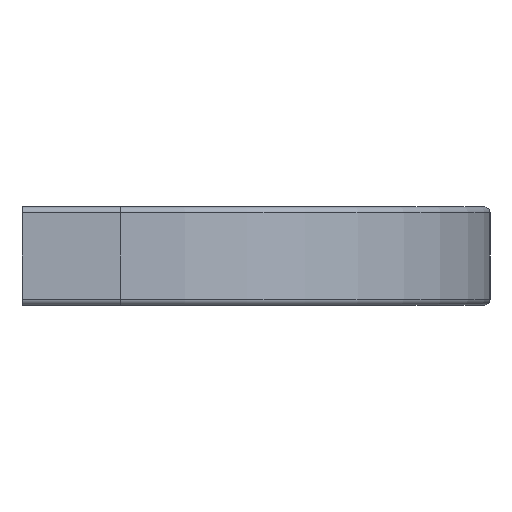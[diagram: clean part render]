
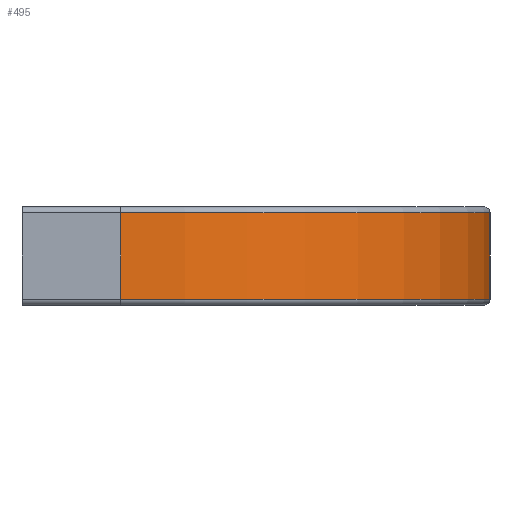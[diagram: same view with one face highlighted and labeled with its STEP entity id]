
A CAD part, left-side view. The second image highlights one B-rep face of the part: STEP entity #495.
In plain terms, the highlighted cylindrical face has radius 30 mm (diameter 60 mm), a partial arc.
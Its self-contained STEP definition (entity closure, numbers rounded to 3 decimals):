
#267 = VERTEX_POINT( '', #669 );
#273 = EDGE_CURVE( '', #267, #431, #675, .T. );
#333 = EDGE_CURVE( '', #547, #463, #738, .T. );
#431 = VERTEX_POINT( '', #847 );
#443 = EDGE_CURVE( '', #547, #267, #860, .T. );
#463 = VERTEX_POINT( '', #881 );
#495 = ADVANCED_FACE( '', ( #917 ), #918, .T. );
#545 = EDGE_CURVE( '', #463, #431, #975, .T. );
#547 = VERTEX_POINT( '', #977 );
#669 = CARTESIAN_POINT( '', ( -10., -8., 3.5 ) );
#675 = LINE( '', #1121, #1122 );
#738 = LINE( '', #1209, #1210 );
#847 = CARTESIAN_POINT( '', ( -10., -8., -3.5 ) );
#860 = CIRCLE( '', #1370, 30. );
#881 = CARTESIAN_POINT( '', ( 20., -38., -3.5 ) );
#917 = FACE_OUTER_BOUND( '', #1446, .T. );
#918 = CYLINDRICAL_SURFACE( '', #1447, 30. );
#975 = CIRCLE( '', #1526, 30. );
#977 = CARTESIAN_POINT( '', ( 20., -38., 3.5 ) );
#1121 = CARTESIAN_POINT( '', ( -10., -8., 4. ) );
#1122 = VECTOR( '', #1682, 1. );
#1209 = CARTESIAN_POINT( '', ( 20., -38., 4. ) );
#1210 = VECTOR( '', #1735, 1. );
#1370 = AXIS2_PLACEMENT_3D( '', #1889, #1890, #1891 );
#1446 = EDGE_LOOP( '', ( #1973, #1974, #1975, #1976 ) );
#1447 = AXIS2_PLACEMENT_3D( '', #1977, #1978, #1979 );
#1526 = AXIS2_PLACEMENT_3D( '', #2057, #2058, #2059 );
#1682 = DIRECTION( '', ( 0., 0., -1. ) );
#1735 = DIRECTION( '', ( 0., 0., -1. ) );
#1889 = CARTESIAN_POINT( '', ( 20., -8., 3.5 ) );
#1890 = DIRECTION( '', ( 0., 0., -1. ) );
#1891 = DIRECTION( '', ( -1., 0., 0. ) );
#1973 = ORIENTED_EDGE( '', *, *, #443, .T. );
#1974 = ORIENTED_EDGE( '', *, *, #273, .T. );
#1975 = ORIENTED_EDGE( '', *, *, #545, .F. );
#1976 = ORIENTED_EDGE( '', *, *, #333, .F. );
#1977 = CARTESIAN_POINT( '', ( 20., -8., 4. ) );
#1978 = DIRECTION( '', ( 0., 0., 1. ) );
#1979 = DIRECTION( '', ( -1., 0., 0. ) );
#2057 = CARTESIAN_POINT( '', ( 20., -8., -3.5 ) );
#2058 = DIRECTION( '', ( 0., 0., -1. ) );
#2059 = DIRECTION( '', ( -1., 0., 0. ) );
